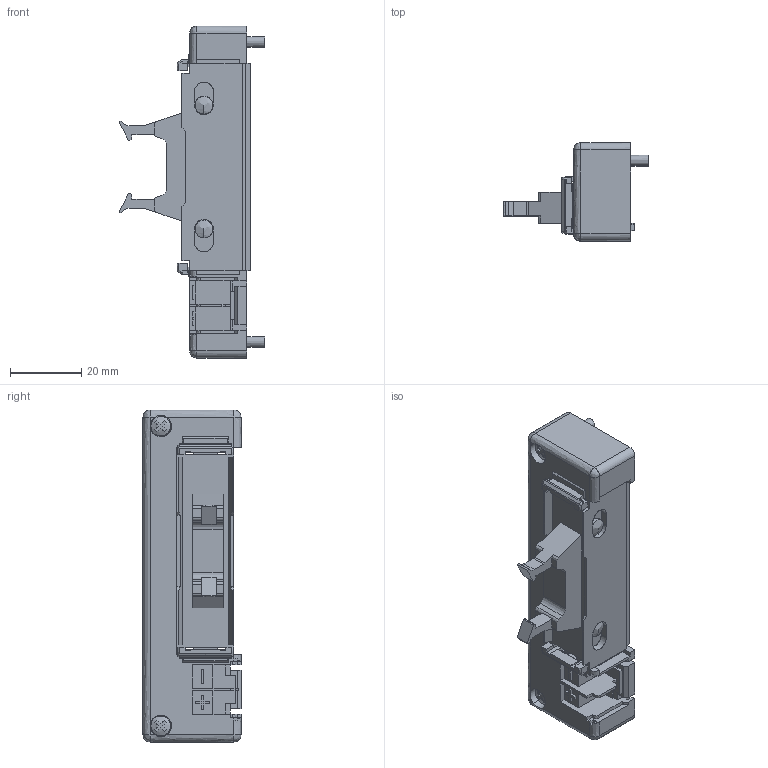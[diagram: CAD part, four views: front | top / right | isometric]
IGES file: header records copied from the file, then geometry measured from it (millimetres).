
Start section: ------------------------------------------------------------------------
Global section: file name: D:\ICADMX\tmp\trans3d_spg\CVICAD02.16560.FZX-F10x-E_8765.igs; native system: spGate; preprocessor: ver12.6.6; author: Unknown; organization: Unknown; date: 200901.142524; units: millimetre
Bounding box: 40.7 x 27.5 x 93 mm (x, y, z)
Surface area: 14794.8 mm2 (no closed solid volume)
Topology: 0 solids, 0 shells, 399 faces, 2344 edges, 2330 vertices
Faces by surface type: bspline 399
